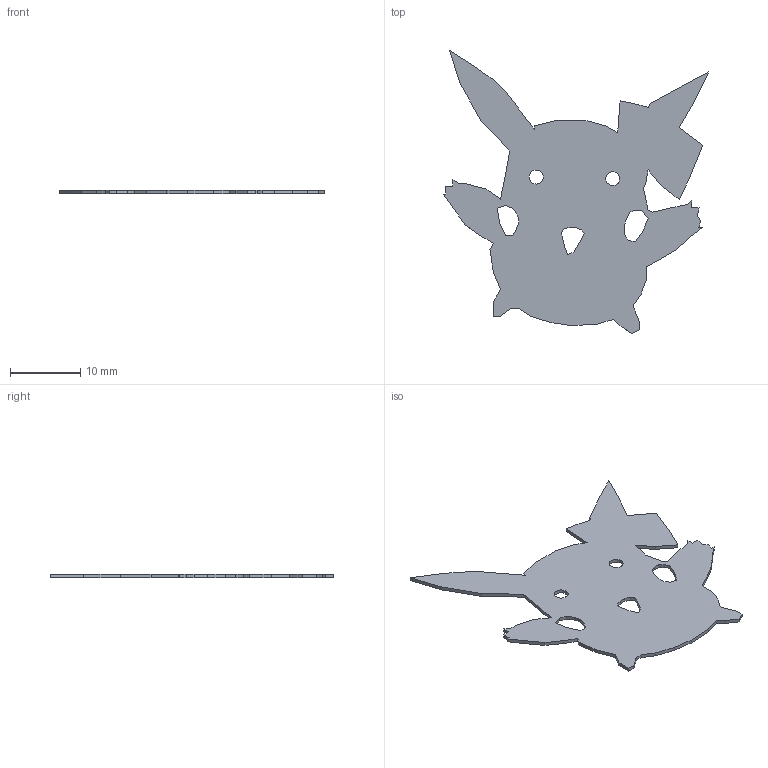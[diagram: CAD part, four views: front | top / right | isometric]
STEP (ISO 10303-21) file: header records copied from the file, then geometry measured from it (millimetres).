
FILE_DESCRIPTION(('STEP AP203'), '1');
FILE_NAME('ïîêåìîí 001 æåëòûé', '', ('UNSPECIFIED'), ('UNSPECIFIED'), 'ASCON STEP Converter 1.3', 'ASCON Math Kernel', '');
FILE_SCHEMA(('CONFIG_CONTROL_DESIGN'));
Length unit declared in the file: millimetre
Bounding box: 37.86 x 40.41 x 0.5 mm (x, y, z)
Volume: 396 mm3; surface area: 1704.6 mm2
Topology: 1 solids, 1 shells, 113 faces, 333 edges, 222 vertices
Faces by surface type: plane 111, cylinder 2
Full cylindrical faces by diameter (mm): 2 x2
Entity records: 4649 total; most frequent: CARTESIAN_POINT 667, ORIENTED_EDGE 662, DIRECTION 563, EDGE_CURVE 331, LINE 327, VECTOR 327, VERTEX_POINT 222, EDGE_LOOP 125
